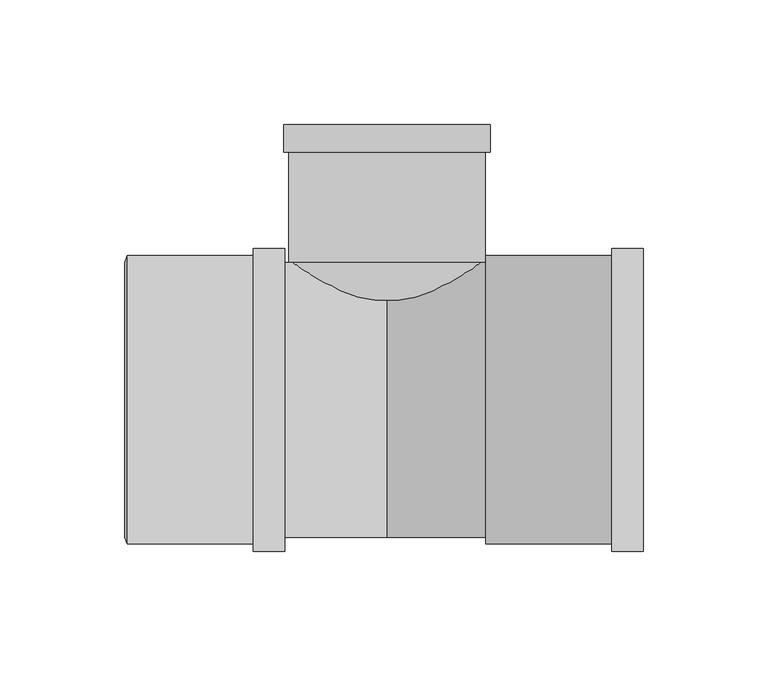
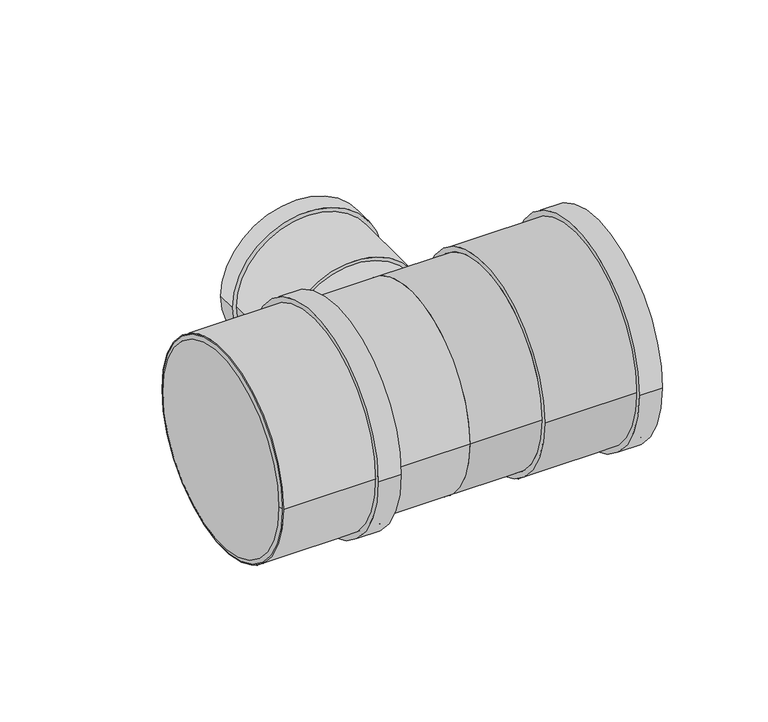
"""IFC4 building model written with IfcOpenShell, lengths in millimetres: pipe fitting geometry, Superdrain HTEA Branch : Superdrain HTEA Branch."""

import ifcopenshell
import ifcopenshell.guid

model = None  # the IFC model being written
_history = None  # IfcOwnerHistory: only IFC2X3 demands one
_inside = {}  # id of a spatial element -> (the spatial element, [elements in it])
_under = {}  # id of a project, library or spatial element -> (it, [spatial elements below it])
_declared = {}  # id of a project -> (the project, [libraries it declares])
_typed = {}  # id of a type object -> (the type object, [elements of that type])
_made_of = {}  # id of a material, layer set ... -> (it, [elements and type objects made of it])


def new_model(schema):
    """Start an empty IFC model of exactly this schema.

    Asked for "IFC4X3", IfcOpenShell would pick the latest addendum, in which some entities
    have other attributes; the version numbers below select the first issue.
    IFC2X3 requires an IfcOwnerHistory on every rooted entity: one is made here for all.
    """
    global model, _history
    if schema == "IFC4X3":
        model = ifcopenshell.file(schema_version=(4, 3, 0, 0))
    else:
        model = ifcopenshell.file(schema=schema)
    _inside.clear()
    _under.clear()
    _declared.clear()
    _typed.clear()
    _made_of.clear()
    _history = None
    if model.schema == "IFC2X3":
        org = make("IfcOrganization", Name="unknown")
        user = make(
            "IfcPersonAndOrganization",
            ThePerson=make("IfcPerson", FamilyName="unknown"),
            TheOrganization=org,
        )
        app = make(
            "IfcApplication",
            ApplicationDeveloper=org,
            Version="unknown",
            ApplicationFullName="unknown",
            ApplicationIdentifier="unknown",
        )
        _history = make(
            "IfcOwnerHistory",
            OwningUser=user,
            OwningApplication=app,
            ChangeAction="ADDED",
            CreationDate=0,
        )
    return model


def make(cls, **values):
    """One entity of the class cls with the attributes given. An attribute that is None is left unset."""
    return model.create_entity(
        cls, **{name: value for name, value in values.items() if value is not None}
    )


def rooted(cls, **values):
    """An entity with a GlobalId (a new one), such as an element, a storey or a relation."""
    return make(cls, GlobalId=ifcopenshell.guid.new(), OwnerHistory=_history, **values)


def si_unit(unit_type, name, prefix=None):
    """IfcSIUnit, for example si_unit("LENGTHUNIT", "METRE", prefix="MILLI")."""
    return make("IfcSIUnit", UnitType=unit_type, Prefix=prefix, Name=name)


def assignment(units):
    """IfcUnitAssignment: the units of a project."""
    return None if units is None else make("IfcUnitAssignment", Units=units)


def point(xyz):
    """IfcCartesianPoint."""
    return None if xyz is None else make("IfcCartesianPoint", Coordinates=xyz)


def direction(xyz):
    """IfcDirection."""
    return None if xyz is None else make("IfcDirection", DirectionRatios=xyz)


def frame(location, z_axis=None, x_axis=None):
    """IfcAxis2Placement3D, a coordinate frame: its origin and axes. An axis left out is left unset."""
    return make(
        "IfcAxis2Placement3D",
        Location=point(location),
        Axis=direction(z_axis),
        RefDirection=direction(x_axis),
    )


def frame_2d(location, x_axis=None):
    """IfcAxis2Placement2D, a coordinate frame in the plane: its origin and x axis."""
    return make(
        "IfcAxis2Placement2D", Location=point(location), RefDirection=direction(x_axis)
    )


def origin():
    """The frame at (0, 0, 0) with its axes left unset."""
    return frame((0.0, 0.0, 0.0))


def origin_2d():
    """The frame at (0, 0) in the plane with its x axis left unset."""
    return frame_2d((0.0, 0.0))


def place(relative_to, where):
    """IfcLocalPlacement: puts the frame where relative to a parent placement (None: the world)."""
    return make(
        "IfcLocalPlacement", PlacementRelTo=relative_to, RelativePlacement=where
    )


def context(
    kind, dimensions, precision=None, world=None, true_north=None, identifier=None
):
    """IfcGeometricRepresentationContext, for example the 3D "Model" context."""
    return make(
        "IfcGeometricRepresentationContext",
        ContextIdentifier=identifier,
        ContextType=kind,
        CoordinateSpaceDimension=dimensions,
        Precision=precision,
        WorldCoordinateSystem=world,
        TrueNorth=true_north,
    )


def project(units=None, contexts=None):
    """IfcProject with its units and contexts."""
    return rooted(
        "IfcProject",
        Name="project",
        RepresentationContexts=contexts,
        UnitsInContext=assignment(units),
    )


def spatial(cls, under=None, at=None, **own):
    """A site, building, storey or space (cls), placed at a placement, below another one or the project."""
    s = rooted(cls, ObjectPlacement=at, **own)
    if under is not None:
        _under.setdefault(under.id(), (under, []))[1].append(s)
    return s


def polyline(points):
    """IfcPolyline through the points."""
    return make("IfcPolyline", Points=[point(p) for p in points])


def circle_curve(where, radius):
    """IfcCircle in the frame where."""
    return make("IfcCircle", Position=where, Radius=radius)


def trimmed(basis, trim1, trim2, sense, master):
    """IfcTrimmedCurve: the piece of a basis curve between two trims."""
    return make(
        "IfcTrimmedCurve",
        BasisCurve=basis,
        Trim1=trim1,
        Trim2=trim2,
        SenseAgreement=sense,
        MasterRepresentation=master,
    )


def segment(curve, same_sense, transition):
    """IfcCompositeCurveSegment."""
    return make(
        "IfcCompositeCurveSegment",
        Transition=transition,
        SameSense=same_sense,
        ParentCurve=curve,
    )


def composite_curve(segments, self_intersect=None):
    """IfcCompositeCurve: segments joined end to end."""
    return make("IfcCompositeCurve", Segments=segments, SelfIntersect=self_intersect)


def outline(outer, holes=None, kind="AREA"):
    """IfcArbitraryClosedProfileDef: a profile drawn as a closed curve; with holes, ...WithVoids."""
    if holes is None:
        return make("IfcArbitraryClosedProfileDef", ProfileType=kind, OuterCurve=outer)
    return make(
        "IfcArbitraryProfileDefWithVoids",
        ProfileType=kind,
        OuterCurve=outer,
        InnerCurves=holes,
    )


def extrude(swept, where, along, depth):
    """IfcExtrudedAreaSolid: the profile swept, set in the frame where, extruded along a direction by depth."""
    return make(
        "IfcExtrudedAreaSolid",
        SweptArea=swept,
        Position=where,
        ExtrudedDirection=direction(along),
        Depth=depth,
    )


def shape(context_of_items, identifier, shape_type, items):
    """IfcShapeRepresentation: the items that make up one representation, for example the "Body"."""
    return make(
        "IfcShapeRepresentation",
        ContextOfItems=context_of_items,
        RepresentationIdentifier=identifier,
        RepresentationType=shape_type,
        Items=items,
    )


def source(mapping_origin, context_of_items, identifier, shape_type, items):
    """IfcRepresentationMap: a shape defined once, which mapped items show again and again."""
    return make(
        "IfcRepresentationMap",
        MappingOrigin=mapping_origin,
        MappedRepresentation=shape(context_of_items, identifier, shape_type, items),
    )


def transform(
    local_origin,
    x_axis=None,
    y_axis=None,
    z_axis=None,
    scale=None,
    scale2=None,
    scale3=None,
    uniform=True,
):
    """IfcCartesianTransformationOperator3D, or its non-uniform kind. x_axis, y_axis, z_axis: its Axis1, 2, 3."""
    if uniform:
        return make(
            "IfcCartesianTransformationOperator3D",
            Axis1=direction(x_axis),
            Axis2=direction(y_axis),
            LocalOrigin=point(local_origin),
            Scale=scale,
            Axis3=direction(z_axis),
        )
    return make(
        "IfcCartesianTransformationOperator3DnonUniform",
        Axis1=direction(x_axis),
        Axis2=direction(y_axis),
        LocalOrigin=point(local_origin),
        Scale=scale,
        Axis3=direction(z_axis),
        Scale2=scale2,
        Scale3=scale3,
    )


def mapped(mapping_source, mapping_target):
    """IfcMappedItem: shows the shape of a source again, moved by a transform."""
    return make(
        "IfcMappedItem", MappingSource=mapping_source, MappingTarget=mapping_target
    )


def made_of(thing, what):
    """Note that an element or type object is made of a material, layer set ...; save() writes the relation."""
    if what is not None:
        _made_of.setdefault(what.id(), (what, []))[1].append(thing)
    return thing


def element(
    cls,
    number,
    at=None,
    inside=None,
    cuts=None,
    type_object=None,
    material=None,
    context=None,
    identifier="Body",
    shape_type=None,
    held_by="IfcProductDefinitionShape",
    body=None,
    shapes=None,
    **own,
):
    """One element of the class cls, such as IfcWall. Its Tag is "e" and its number.

    at: its placement. inside: the storey or other place that contains it. cuts: it is an
    opening in that element (IfcRelVoidsElement). A single representation is given by context,
    identifier, shape_type and body (its items); several are given by shapes. held_by: the class
    of the entity that holds the representations. save() writes the other relations.
    """
    e = rooted(cls, Tag="e%d" % number, ObjectPlacement=at, **own)
    if body is not None:
        shapes = [shape(context, identifier, shape_type, body)]
    if shapes is not None:
        e.Representation = make(held_by, Representations=shapes)
    if inside is not None:
        _inside.setdefault(inside.id(), (inside, []))[1].append(e)
    if cuts is not None:
        rooted(
            "IfcRelVoidsElement", RelatingBuildingElement=cuts, RelatedOpeningElement=e
        )
    if type_object is not None:
        _typed.setdefault(type_object.id(), (type_object, []))[1].append(e)
    return made_of(e, material)


def aggregate(whole, parts):
    """IfcRelAggregates: a whole, such as a stair, and the parts it consists of."""
    return rooted("IfcRelAggregates", RelatingObject=whole, RelatedObjects=parts)


def save(model, path):
    """Write the relations noted so far, then the file.

    IfcRelAggregates (storeys below a building ...), IfcRelContainedInSpatialStructure (elements
    in a storey), IfcRelDefinesByType, IfcRelAssociatesMaterial and IfcRelDeclares: one each for
    every whole, place, type object, material and project.
    """
    for whole, parts in _under.values():
        aggregate(whole, parts)
    for where, things in _inside.values():
        rooted(
            "IfcRelContainedInSpatialStructure",
            RelatedElements=things,
            RelatingStructure=where,
        )
    for kind, things in _typed.values():
        rooted("IfcRelDefinesByType", RelatedObjects=things, RelatingType=kind)
    for what, things in _made_of.values():
        rooted("IfcRelAssociatesMaterial", RelatedObjects=things, RelatingMaterial=what)
    for by, libraries in _declared.values():
        rooted("IfcRelDeclares", RelatingContext=by, RelatedDefinitions=libraries)
    model.write(path)


def plane_surface(at):
    """IfcPlane: the flat surface through the origin of the frame at, square to its z axis."""
    return make("IfcPlane", Position=at)


def revolved_surface(curve, axis_point, axis_direction):
    """IfcSurfaceOfRevolution: the curve turned about the line through axis_point along axis_direction."""
    return make(
        "IfcSurfaceOfRevolution",
        SweptCurve=make("IfcArbitraryOpenProfileDef", ProfileType="CURVE", Curve=curve),
        AxisPosition=make("IfcAxis1Placement", Location=point(axis_point), Axis=direction(axis_direction)),
    )


def advanced_brep(points, edges, surfaces, faces):
    """IfcAdvancedBrep: a solid bounded by faces that lie on surfaces and meet in shared edges.

    An edge is (start, end): straight between two places in points (the first is 0);
    or (start, end, curve); or (start, end, curve, False) where it runs against its curve.
    A face is (place in surfaces, loops), or (place, loops, False) where it looks against
    its surface's normal. A loop lists edges by number (the first is 1), with a minus sign
    where the edge is run from its end to its start. The first loop is the outer one.
    """
    corners = [point(p) for p in points]
    vertices = [make("IfcVertexPoint", VertexGeometry=c) for c in corners]
    made = []
    for start, end, *more in edges:
        made.append(
            make(
                "IfcEdgeCurve",
                EdgeStart=vertices[start],
                EdgeEnd=vertices[end],
                EdgeGeometry=more[0] if more else make("IfcPolyline", Points=[corners[start], corners[end]]),
                SameSense=more[1] if len(more) > 1 else True,
            )
        )
    hull = []
    for where, loops, *sense in faces:
        bounds = []
        for j, loop in enumerate(loops):
            ring = [make("IfcOrientedEdge", EdgeElement=made[abs(k) - 1], Orientation=k > 0) for k in loop]
            bounds.append(
                make(
                    "IfcFaceOuterBound" if j == 0 else "IfcFaceBound",
                    Bound=make("IfcEdgeLoop", EdgeList=ring),
                    Orientation=True,
                )
            )
        hull.append(make("IfcAdvancedFace", Bounds=bounds, FaceSurface=surfaces[where], SameSense=sense[0] if sense else True))
    return make("IfcAdvancedBrep", Outer=make("IfcClosedShell", CfsFaces=hull))


def pipe_fitting_a8cb0abb(model_context):
    return source(origin(), model_context, "Body", "SolidModel", [
        extrude(outline(composite_curve([segment(trimmed(circle_curve(origin_2d(), 57.75), [point((57.75, 0.0))], [point((-57.75, 0.0))], False, "CARTESIAN"), True, "CONTINUOUS"), segment(trimmed(circle_curve(origin_2d(), 57.75), [point((-57.75, 0.0))], [point((57.75, 0.0))], False, "CARTESIAN"), True, "CONTINUOUS")], self_intersect=False), holes=[composite_curve([segment(trimmed(circle_curve(origin_2d(), 55.0), [point((55.0, 0.0))], [point((-55.0, 0.0))], True, "CARTESIAN"), True, "CONTINUOUS"), segment(trimmed(circle_curve(origin_2d(), 55.0), [point((-55.0, 0.0))], [point((55.0, 0.0))], True, "CARTESIAN"), True, "CONTINUOUS")], self_intersect=False)]), frame((-103.9, 0.0, 0.0), z_axis=(1.0, 0.0, 0.0), x_axis=(0.0, 1.0, 0.0)), (0.0, 0.0, 1.0), 63.0),
        extrude(outline(composite_curve([segment(trimmed(circle_curve(origin_2d(), 60.6375), [point((60.6375, 0.0))], [point((-60.6375, 0.0))], False, "CARTESIAN"), True, "CONTINUOUS"), segment(trimmed(circle_curve(origin_2d(), 60.6375), [point((-60.6375, 0.0))], [point((60.6375, 0.0))], False, "CARTESIAN"), True, "CONTINUOUS")], self_intersect=False), holes=[composite_curve([segment(trimmed(circle_curve(origin_2d(), 55.0), [point((55.0, 0.0))], [point((-55.0, 0.0))], True, "CARTESIAN"), True, "CONTINUOUS"), segment(trimmed(circle_curve(origin_2d(), 55.0), [point((-55.0, 0.0))], [point((55.0, 0.0))], True, "CARTESIAN"), True, "CONTINUOUS")], self_intersect=False)]), frame((-53.5, 0.0, 0.0), z_axis=(1.0, 0.0, 0.0), x_axis=(0.0, 1.0, 0.0)), (0.0, 0.0, 1.0), 12.6),
        advanced_brep(
        [(-104.9, 55.0, 0.0), (-104.9, -55.0, 0.0), (-103.9, 57.75, 0.0), (-103.9, -57.75, 0.0)],
        [
            (0, 1, circle_curve(frame((-104.9, 0.0, 0.0), z_axis=(-1.0, 0.0, 0.0), x_axis=(0.0, 1.0000000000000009, 0.0)), 55.0)),
            (1, 0, circle_curve(frame((-104.9, 0.0, 0.0), z_axis=(-1.0, 0.0, 0.0), x_axis=(0.0, -1.0000000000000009, 0.0)), 55.0)),
            (2, 3, circle_curve(frame((-103.9, 0.0, 0.0), z_axis=(1.0, 0.0, 0.0), x_axis=(0.0, -1.0000000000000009, 0.0)), 57.75)),
            (3, 2, circle_curve(frame((-103.9, 0.0, 0.0), z_axis=(1.0, 0.0, 0.0), x_axis=(0.0, 1.0000000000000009, 0.0)), 57.75)),
            (3, 1),
            (0, 2),
        ],
        [
            plane_surface(frame((-104.9, 0.0, 0.0), z_axis=(-1.0, 0.0, 0.0), x_axis=(0.0, 0.0, -1.0))),
            plane_surface(frame((-103.9, 0.0, 0.0), z_axis=(1.0, 0.0, 0.0), x_axis=(0.0, 0.0, -1.0))),
            revolved_surface(polyline([(-104.9, 54.99999999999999, 0.0), (-103.9, 57.75, 0.0)]), (-124.9, 0.0, 0.0), (1.0000000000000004, 0.0, 0.0)),
            revolved_surface(polyline([(-104.9, -54.99999999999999, 0.0), (-103.9, -57.75, 0.0)]), (-124.9, 0.0, 0.0), (1.0000000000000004, 0.0, 0.0)),
        ],
        [
            (0, [[1, 2]]),
            (1, [[3, 4]]),
            (2, [[-4, 5, -1, 6]]),
            (3, [[-3, -6, -2, -5]]),
        ],
    ),
        extrude(outline(composite_curve([segment(trimmed(circle_curve(origin_2d(), 57.75), [point((-57.75, 0.0))], [point((57.75, 0.0))], False, "CARTESIAN"), True, "CONTINUOUS"), segment(trimmed(circle_curve(origin_2d(), 57.75), [point((57.75, 0.0))], [point((-57.75, 0.0))], False, "CARTESIAN"), True, "CONTINUOUS")], self_intersect=False), holes=[composite_curve([segment(trimmed(circle_curve(origin_2d(), 55.0), [point((55.0, 0.0))], [point((-55.0, 0.0))], True, "CARTESIAN"), True, "CONTINUOUS"), segment(trimmed(circle_curve(origin_2d(), 55.0), [point((-55.0, 0.0))], [point((55.0, 0.0))], True, "CARTESIAN"), True, "CONTINUOUS")], self_intersect=False)]), frame((39.6, 0.0, 0.0), z_axis=(1.0, 0.0, 0.0), x_axis=(0.0, 1.0, 0.0)), (0.0, 0.0, 1.0), 63.0),
        extrude(outline(composite_curve([segment(trimmed(circle_curve(origin_2d(), 60.6375), [point((60.6375, 0.0))], [point((-60.6375, 0.0))], False, "CARTESIAN"), True, "CONTINUOUS"), segment(trimmed(circle_curve(origin_2d(), 60.6375), [point((-60.6375, 0.0))], [point((60.6375, 0.0))], False, "CARTESIAN"), True, "CONTINUOUS")], self_intersect=False), holes=[composite_curve([segment(trimmed(circle_curve(origin_2d(), 55.0), [point((55.0, 0.0))], [point((-55.0, 0.0))], True, "CARTESIAN"), True, "CONTINUOUS"), segment(trimmed(circle_curve(origin_2d(), 55.0), [point((-55.0, 0.0))], [point((55.0, 0.0))], True, "CARTESIAN"), True, "CONTINUOUS")], self_intersect=False)]), frame((90.0, 0.0, 0.0), z_axis=(1.0, 0.0, 0.0), x_axis=(0.0, 1.0, 0.0)), (0.0, 0.0, 1.0), 12.6),
        extrude(outline(composite_curve([segment(trimmed(circle_curve(origin_2d(), 37.5), [point((0.0, 37.5))], [point((0.0, -37.5))], False, "CARTESIAN"), True, "CONTINUOUS"), segment(trimmed(circle_curve(origin_2d(), 37.5), [point((0.0, -37.5))], [point((0.0, 37.5))], False, "CARTESIAN"), True, "CONTINUOUS")], self_intersect=False)), frame((0.0, 0.0, 0.0), z_axis=(0.0, 1.0, 0.0), x_axis=(0.0, 0.0, 1.0)), (0.0, 0.0, 1.0), 55.2),
        extrude(outline(composite_curve([segment(trimmed(circle_curve(origin_2d(), 55.0), [point((55.0, 0.0))], [point((-55.0, 0.0))], False, "CARTESIAN"), True, "CONTINUOUS"), segment(trimmed(circle_curve(origin_2d(), 55.0), [point((-55.0, 0.0))], [point((55.0, 0.0))], False, "CARTESIAN"), True, "CONTINUOUS")], self_intersect=False)), frame((-103.9, 0.0, 0.0), z_axis=(1.0, 0.0, 0.0), x_axis=(0.0, 1.0, 0.0)), (0.0, 0.0, 1.0), 103.9),
        extrude(outline(composite_curve([segment(trimmed(circle_curve(origin_2d(), 55.0), [point((-55.0, 0.0))], [point((55.0, 0.0))], False, "CARTESIAN"), True, "CONTINUOUS"), segment(trimmed(circle_curve(origin_2d(), 55.0), [point((55.0, 0.0))], [point((-55.0, 0.0))], False, "CARTESIAN"), True, "CONTINUOUS")], self_intersect=False)), frame((0.0, 0.0, 0.0), z_axis=(1.0, 0.0, 0.0), x_axis=(0.0, 1.0, 0.0)), (0.0, 0.0, 1.0), 39.6),
        extrude(outline(composite_curve([segment(trimmed(circle_curve(origin_2d(), 41.34375), [point((0.0, 41.34375))], [point((0.0, -41.34375))], False, "CARTESIAN"), True, "CONTINUOUS"), segment(trimmed(circle_curve(origin_2d(), 41.34375), [point((0.0, -41.34375))], [point((0.0, 41.34375))], False, "CARTESIAN"), True, "CONTINUOUS")], self_intersect=False), holes=[composite_curve([segment(trimmed(circle_curve(origin_2d(), 37.5), [point((0.0, 37.5))], [point((0.0, -37.5))], True, "CARTESIAN"), True, "CONTINUOUS"), segment(trimmed(circle_curve(origin_2d(), 37.5), [point((0.0, -37.5))], [point((0.0, 37.5))], True, "CARTESIAN"), True, "CONTINUOUS")], self_intersect=False)]), frame((0.0, 99.2, 0.0), z_axis=(0.0, 1.0, 0.0), x_axis=(0.0, 0.0, 1.0)), (0.0, 0.0, 1.0), 11.0),
        extrude(outline(composite_curve([segment(trimmed(circle_curve(origin_2d(), 39.375), [point((0.0, 39.375))], [point((0.0, -39.375))], False, "CARTESIAN"), True, "CONTINUOUS"), segment(trimmed(circle_curve(origin_2d(), 39.375), [point((0.0, -39.375))], [point((0.0, 39.375))], False, "CARTESIAN"), True, "CONTINUOUS")], self_intersect=False), holes=[composite_curve([segment(trimmed(circle_curve(origin_2d(), 37.5), [point((0.0, 37.5))], [point((0.0, -37.5))], True, "CARTESIAN"), True, "CONTINUOUS"), segment(trimmed(circle_curve(origin_2d(), 37.5), [point((0.0, -37.5))], [point((0.0, 37.5))], True, "CARTESIAN"), True, "CONTINUOUS")], self_intersect=False)]), frame((0.0, 55.2, 0.0), z_axis=(0.0, 1.0, 0.0), x_axis=(0.0, 0.0, 1.0)), (0.0, 0.0, 1.0), 55.0),
    ])


if __name__ == "__main__":
    model = new_model("IFC4")
    model_context = context("Model", 3, world=origin())
    ifc_project = project(units=[si_unit("LENGTHUNIT", "METRE", prefix="MILLI")], contexts=[model_context])
    site = spatial("IfcSite", under=ifc_project)
    building = spatial("IfcBuilding", under=site)
    placement = place(None, origin())
    pipe_fitting_shape = pipe_fitting_a8cb0abb(model_context)
    element("IfcPipeFitting", 1, ObjectType="Superdrain HTEA Branch : Superdrain HTEA Branch", at=placement, inside=building, context=model_context, shape_type="MappedRepresentation", body=[
        mapped(pipe_fitting_shape, transform((0.0, 0.0, 0.0), x_axis=(1.0, 0.0, 0.0), y_axis=(0.0, 1.0, 0.0), z_axis=(0.0, 0.0, 1.0))),
    ])
    save(model, "model.ifc")
